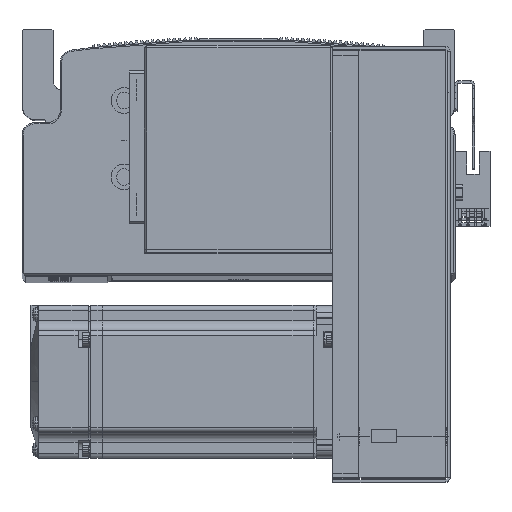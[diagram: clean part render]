
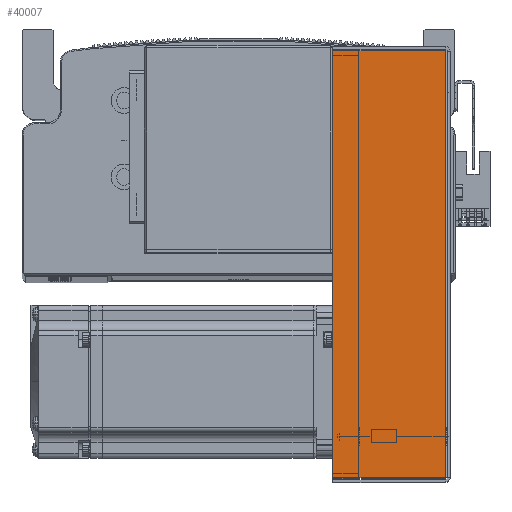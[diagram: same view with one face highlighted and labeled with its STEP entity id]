
A CAD part, top view. The second image highlights one B-rep face of the part: STEP entity #40007.
In plain terms, the highlighted planar face has unit normal (0, 0, 1) as drawn and (0, 0, -1) by its records, which use the part's own axes.
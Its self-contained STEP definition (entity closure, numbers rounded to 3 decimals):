
#7495 = VECTOR ( 'NONE', #36414, 1000. ) ;
#7503 = LINE ( 'NONE', #36445, #7495 ) ;
#7572 = VECTOR ( 'NONE', #36515, 1000. ) ;
#7617 = LINE ( 'NONE', #36505, #7572 ) ;
#7624 = LINE ( 'NONE', #36543, #7626 ) ;
#7626 = VECTOR ( 'NONE', #36585, 1000. ) ;
#7629 = LINE ( 'NONE', #36578, #7639 ) ;
#7639 = VECTOR ( 'NONE', #36572, 1000. ) ;
#12554 = FACE_OUTER_BOUND ( 'NONE', #54763, .T. ) ;
#13043 = AXIS2_PLACEMENT_3D ( 'NONE', #48619, #48600, #48580 ) ;
#36414 = DIRECTION ( 'NONE',  ( 1., 0., 0. ) ) ;
#36445 = CARTESIAN_POINT ( 'NONE',  ( 84.5, 45., -40.5 ) ) ;
#36505 = CARTESIAN_POINT ( 'NONE',  ( 83.793, 0., -40.5 ) ) ;
#36515 = DIRECTION ( 'NONE',  ( 0., 1., 0. ) ) ;
#36543 = CARTESIAN_POINT ( 'NONE',  ( -83.793, 0., -40.5 ) ) ;
#36572 = DIRECTION ( 'NONE',  ( 1., 0., 0. ) ) ;
#36578 = CARTESIAN_POINT ( 'NONE',  ( 0., 0.737, -40.5 ) ) ;
#36585 = DIRECTION ( 'NONE',  ( 0., 1., 0. ) ) ;
#40007 = ADVANCED_FACE ( 'NONE', ( #12554 ), #48593, .F. ) ;
#45295 = CARTESIAN_POINT ( 'NONE',  ( -83.793, 0.737, -40.5 ) ) ;
#45298 = CARTESIAN_POINT ( 'NONE',  ( -83.793, 45., -40.5 ) ) ;
#45309 = CARTESIAN_POINT ( 'NONE',  ( 83.793, 0.737, -40.5 ) ) ;
#45329 = CARTESIAN_POINT ( 'NONE',  ( 83.793, 45., -40.5 ) ) ;
#48580 = DIRECTION ( 'NONE',  ( 0., -1., 0. ) ) ;
#48593 = PLANE ( 'NONE',  #13043 ) ;
#48600 = DIRECTION ( 'NONE',  ( 0., 0., 1. ) ) ;
#48619 = CARTESIAN_POINT ( 'NONE',  ( 0., 0., -40.5 ) ) ;
#51651 = VERTEX_POINT ( 'NONE', #45329 ) ;
#51654 = VERTEX_POINT ( 'NONE', #45309 ) ;
#51658 = VERTEX_POINT ( 'NONE', #45295 ) ;
#51768 = VERTEX_POINT ( 'NONE', #45298 ) ;
#54763 = EDGE_LOOP ( 'NONE', ( #68604, #68593, #68583, #68578 ) ) ;
#55364 = EDGE_CURVE ( 'NONE', #51768, #51651, #7503, .T. ) ;
#55405 = EDGE_CURVE ( 'NONE', #51654, #51651, #7617, .T. ) ;
#55451 = EDGE_CURVE ( 'NONE', #51658, #51768, #7624, .T. ) ;
#55458 = EDGE_CURVE ( 'NONE', #51658, #51654, #7629, .T. ) ;
#68578 = ORIENTED_EDGE ( 'NONE', *, *, #55405, .F. ) ;
#68583 = ORIENTED_EDGE ( 'NONE', *, *, #55364, .T. ) ;
#68593 = ORIENTED_EDGE ( 'NONE', *, *, #55451, .T. ) ;
#68604 = ORIENTED_EDGE ( 'NONE', *, *, #55458, .F. ) ;
